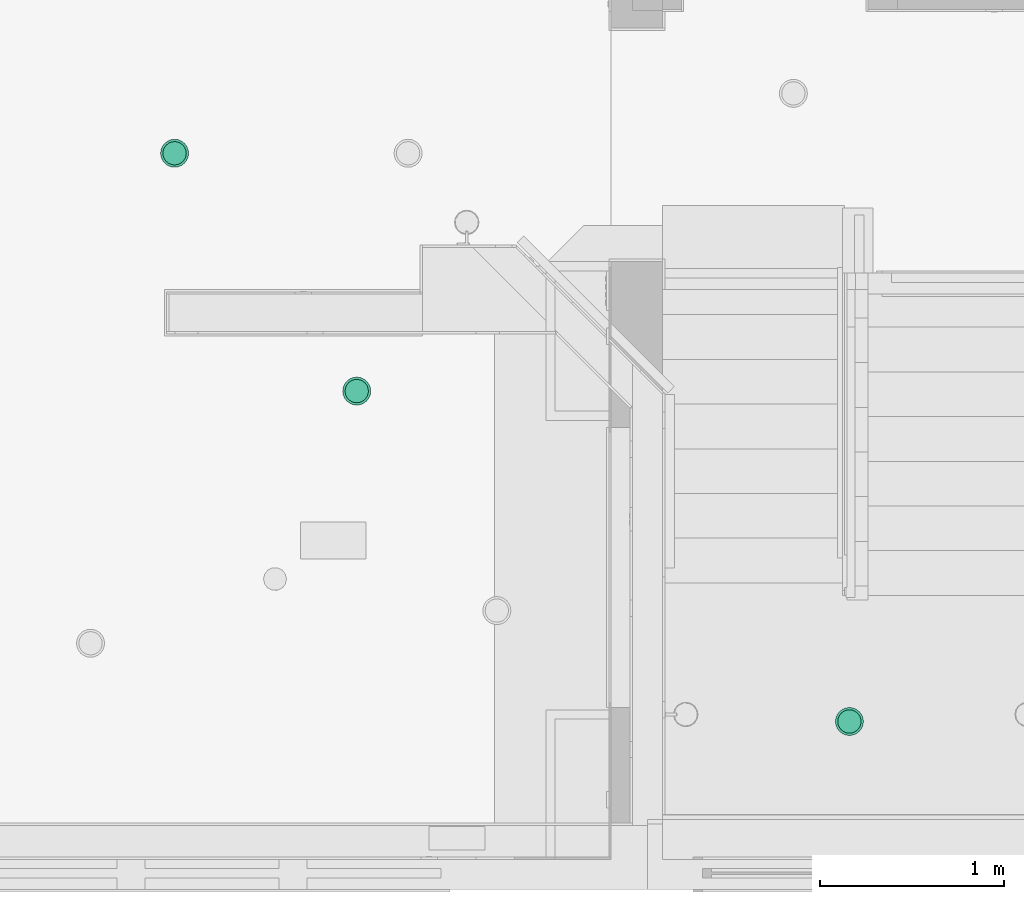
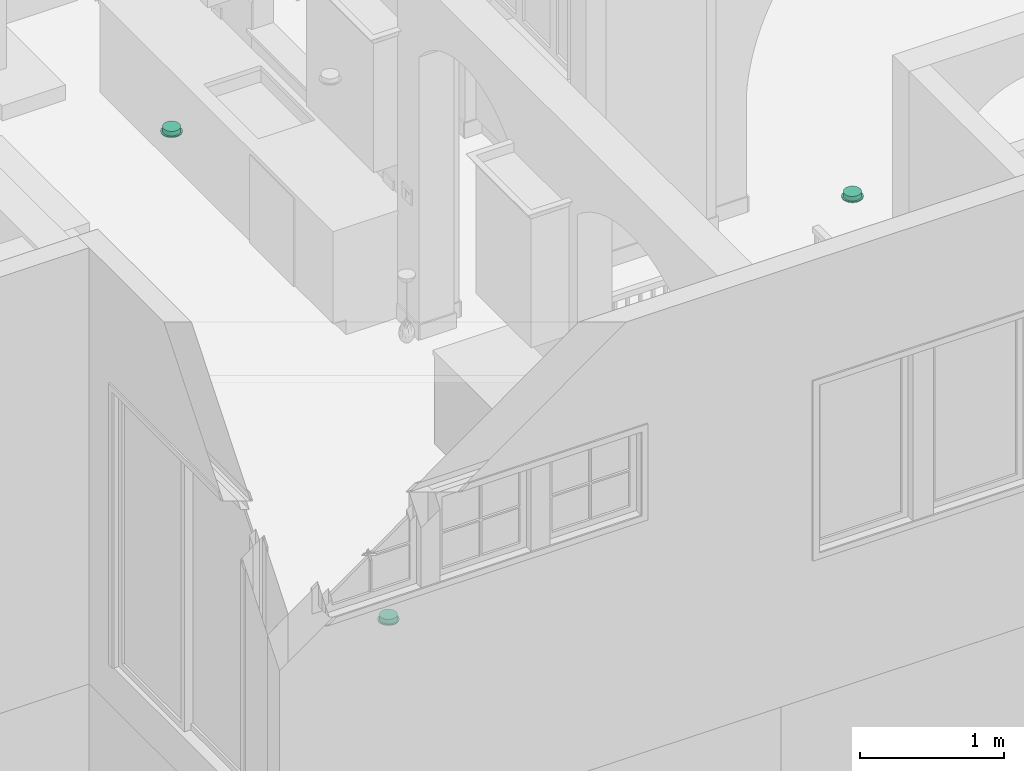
# One storey, part 40 of 81: 3 flow terminals.
"""IFC2X3 building model written with IfcOpenShell, lengths in feet."""

from ifc_helpers import new_model, entity, si_unit, converted_unit, derived_unit, direction, frame, origin, place, context, subcontext, project, spatial, faceted_brep, source, transform, mapped, material, material_list, type_object, type_shapes, element, save


model = new_model("IFC2X3")

# Units and contexts
model_context = context("Model", 3, precision=0.0001, world=origin(), true_north=direction((6.12303176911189e-17, 1.0)))
body_context = subcontext(model_context, "Body", "Model", "MODEL_VIEW")
ifc_project = project(units=[converted_unit("LENGTHUNIT", "FOOT", entity("IfcRatioMeasure", 0.3048), si_unit("LENGTHUNIT", "METRE"), dimensions=[1, 0, 0, 0, 0, 0, 0]), converted_unit("AREAUNIT", "SQUARE FOOT", entity("IfcRatioMeasure", 0.09290304), si_unit("AREAUNIT", "SQUARE_METRE"), dimensions=[2, 0, 0, 0, 0, 0, 0]), converted_unit("VOLUMEUNIT", "CUBIC FOOT", entity("IfcRatioMeasure", 0.028316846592), si_unit("VOLUMEUNIT", "CUBIC_METRE"), dimensions=[3, 0, 0, 0, 0, 0, 0]), converted_unit("PLANEANGLEUNIT", "DEGREE", entity("IfcRatioMeasure", 0.0174532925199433), si_unit("PLANEANGLEUNIT", "RADIAN"), dimensions=[0, 0, 0, 0, 0, 0, 0]), si_unit("MASSUNIT", "GRAM", prefix="KILO"), derived_unit("MASSDENSITYUNIT", [(si_unit("MASSUNIT", "GRAM", prefix="KILO"), 1), (si_unit("LENGTHUNIT", "METRE"), -3)]), derived_unit("MOMENTOFINERTIAUNIT", [(si_unit("LENGTHUNIT", "METRE"), 4)]), si_unit("TIMEUNIT", "SECOND"), si_unit("FREQUENCYUNIT", "HERTZ"), si_unit("THERMODYNAMICTEMPERATUREUNIT", "DEGREE_CELSIUS"), derived_unit("THERMALTRANSMITTANCEUNIT", [(si_unit("MASSUNIT", "GRAM", prefix="KILO"), 1), (si_unit("THERMODYNAMICTEMPERATUREUNIT", "KELVIN"), -1), (si_unit("TIMEUNIT", "SECOND"), -3)]), derived_unit("VOLUMETRICFLOWRATEUNIT", [(si_unit("LENGTHUNIT", "METRE"), 3), (si_unit("TIMEUNIT", "SECOND"), -1)]), si_unit("ELECTRICCURRENTUNIT", "AMPERE"), si_unit("ELECTRICVOLTAGEUNIT", "VOLT"), si_unit("POWERUNIT", "WATT"), si_unit("FORCEUNIT", "NEWTON"), si_unit("ILLUMINANCEUNIT", "LUX"), si_unit("LUMINOUSFLUXUNIT", "LUMEN"), si_unit("LUMINOUSINTENSITYUNIT", "CANDELA"), derived_unit("USERDEFINED", [(si_unit("MASSUNIT", "GRAM", prefix="KILO"), -1), (si_unit("LENGTHUNIT", "METRE"), -2), (si_unit("TIMEUNIT", "SECOND"), 3), (si_unit("LUMINOUSFLUXUNIT", "LUMEN"), 1)]), derived_unit("LINEARVELOCITYUNIT", [(si_unit("LENGTHUNIT", "METRE"), 1), (si_unit("TIMEUNIT", "SECOND"), -1)]), si_unit("PRESSUREUNIT", "PASCAL"), derived_unit("USERDEFINED", [(si_unit("LENGTHUNIT", "METRE"), -2), (si_unit("MASSUNIT", "GRAM", prefix="KILO"), 1), (si_unit("TIMEUNIT", "SECOND"), -2)]), derived_unit("LINEARFORCEUNIT", [(si_unit("MASSUNIT", "GRAM", prefix="KILO"), 1), (si_unit("LENGTHUNIT", "METRE"), 1), (si_unit("TIMEUNIT", "SECOND"), -2), (si_unit("LENGTHUNIT", "METRE"), -1)]), derived_unit("PLANARFORCEUNIT", [(si_unit("MASSUNIT", "GRAM", prefix="KILO"), 1), (si_unit("LENGTHUNIT", "METRE"), 1), (si_unit("TIMEUNIT", "SECOND"), -2), (si_unit("LENGTHUNIT", "METRE"), -2)])], contexts=[model_context])

# Site, building, storey
site_placement = place(None, origin())
site = spatial("IfcSite", under=ifc_project, at=site_placement, Name="Default", CompositionType="ELEMENT")
building_placement = place(site_placement, origin())
building = spatial("IfcBuilding", under=site, at=building_placement, CompositionType="ELEMENT")
storey_placement = place(building_placement, origin())
storey = spatial("IfcBuildingStorey", under=building, at=storey_placement, Name="First floor", CompositionType="ELEMENT", Elevation=0.0)

# Flow terminals
ifc_material_1 = material(Name="Default New Material")
ifc_material_2 = material(Name="Glass, White, High Luminance")
ifc_material_list_1 = material_list([ifc_material_1, ifc_material_2])
ifc_material_list_2 = material_list([ifc_material_1, ifc_material_2])
light_fixture_type = type_object("IfcLightFixtureType", Name="M_Recessed Lamp - Round - LED:Light 2", PredefinedType="NOTDEFINED", material=ifc_material_list_2)
shared_shape = source(origin(), body_context, "Body", "Brep", [
    faceted_brep([(-0.124999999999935, 0.216506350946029, 0.0208333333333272), (-0.176776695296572, 0.176776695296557, 0.0208333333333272), (-0.0833333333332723, 0.144337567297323, 0.0208333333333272), (-0.0431365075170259, 0.160987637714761, 0.0208333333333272), (-0.0647047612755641, 0.241481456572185, 0.0208333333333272), (-0.117851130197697, 0.117851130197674, 0.0208333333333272), (-0.216506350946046, 0.12499999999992, 0.0208333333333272), (-0.144337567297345, 0.0833333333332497, 0.0208333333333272), (-0.160987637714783, 0.0431365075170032, 0.0208333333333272), (-0.241481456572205, 0.0647047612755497, 0.0208333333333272), (-0.166666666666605, 0.0, 0.0208333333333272), (-0.249999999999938, 0.0, 0.0208333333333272), (-0.160987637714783, -0.0431365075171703, 0.0208333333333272), (-0.241481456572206, -0.0647047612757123, 0.0208333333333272), (-0.144337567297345, -0.0833333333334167, 0.0208333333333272), (-0.216506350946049, -0.125000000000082, 0.0208333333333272), (-0.117851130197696, -0.117851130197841, 0.0208333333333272), (-0.176776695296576, -0.176776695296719, 0.0208333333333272), (-0.0833333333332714, -0.14433756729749, 0.0208333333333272), (-0.12499999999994, -0.216506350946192, 0.0208333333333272), (-0.0431365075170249, -0.160987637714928, 0.0208333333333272), (-0.0647047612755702, -0.24148145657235, 0.0208333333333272), (0.0, -0.16666666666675, 0.0208333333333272), (0.0, -0.250000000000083, 0.0208333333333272), (0.0431365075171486, -0.160987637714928, 0.0208333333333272), (0.0647047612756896, -0.241481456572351, 0.0208333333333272), (0.0833333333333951, -0.144337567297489, 0.0208333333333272), (0.12500000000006, -0.216506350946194, 0.0208333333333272), (0.11785113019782, -0.117851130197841, 0.0208333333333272), (0.176776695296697, -0.176776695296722, 0.0208333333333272), (0.144337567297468, -0.0833333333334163, 0.0208333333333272), (0.21650635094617, -0.125000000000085, 0.0208333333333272), (0.241481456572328, -0.0647047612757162, 0.0208333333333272), (0.160987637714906, -0.0431365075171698, 0.0208333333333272), (0.250000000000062, 0.0, 0.0208333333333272), (0.166666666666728, 0.0, 0.0208333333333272), (0.241481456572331, 0.06470476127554, 0.0208333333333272), (0.160987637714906, 0.0431365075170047, 0.0208333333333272), (0.216506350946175, 0.124999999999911, 0.0208333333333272), (0.144337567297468, 0.0833333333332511, 0.0208333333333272), (0.176776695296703, 0.176776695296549, 0.0208333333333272), (0.117851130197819, 0.117851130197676, 0.0208333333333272), (0.125000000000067, 0.216506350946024, 0.0208333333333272), (0.0833333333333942, 0.144337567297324, 0.0208333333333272), (0.0647047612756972, 0.241481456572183, 0.0208333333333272), (0.0431365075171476, 0.160987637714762, 0.0208333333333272), (0.0, 0.249999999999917, 0.0208333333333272), (0.0, 0.166666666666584, 0.0208333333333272), (-0.12499999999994, -0.216506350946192, 0.0), (-0.176776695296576, -0.176776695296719, 0.0), (-0.0833333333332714, -0.14433756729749, 0.0), (-0.0431365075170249, -0.160987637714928, 0.0), (-0.0647047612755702, -0.24148145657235, 0.0), (-0.117851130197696, -0.117851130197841, 0.0), (-0.216506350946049, -0.125000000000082, 0.0), (-0.144337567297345, -0.0833333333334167, 0.0), (-0.160987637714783, -0.0431365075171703, 0.0), (-0.241481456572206, -0.0647047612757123, 0.0), (-0.166666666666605, 0.0, 0.0), (-0.249999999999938, 0.0, 0.0), (-0.160987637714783, 0.0431365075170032, 0.0), (-0.241481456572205, 0.0647047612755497, 0.0), (-0.144337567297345, 0.0833333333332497, 0.0), (-0.216506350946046, 0.12499999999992, 0.0), (-0.117851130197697, 0.117851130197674, 0.0), (-0.176776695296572, 0.176776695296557, 0.0), (-0.0833333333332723, 0.144337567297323, 0.0), (-0.124999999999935, 0.216506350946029, 0.0), (-0.0431365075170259, 0.160987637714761, 0.0), (-0.0647047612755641, 0.241481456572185, 0.0), (0.0, 0.166666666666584, 0.0), (0.0, 0.249999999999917, 0.0), (0.0431365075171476, 0.160987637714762, 0.0), (0.0647047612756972, 0.241481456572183, 0.0), (0.0833333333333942, 0.144337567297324, 0.0), (0.125000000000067, 0.216506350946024, 0.0), (0.117851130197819, 0.117851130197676, 0.0), (0.176776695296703, 0.176776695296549, 0.0), (0.144337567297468, 0.0833333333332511, 0.0), (0.216506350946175, 0.124999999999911, 0.0), (0.241481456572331, 0.06470476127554, 0.0), (0.160987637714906, 0.0431365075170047, 0.0), (0.250000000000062, 0.0, 0.0), (0.166666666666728, 0.0, 0.0), (0.241481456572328, -0.0647047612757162, 0.0), (0.160987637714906, -0.0431365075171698, 0.0), (0.21650635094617, -0.125000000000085, 0.0), (0.144337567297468, -0.0833333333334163, 0.0), (0.176776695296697, -0.176776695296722, 0.0), (0.11785113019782, -0.117851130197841, 0.0), (0.12500000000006, -0.216506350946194, 0.0), (0.0833333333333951, -0.144337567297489, 0.0), (0.0647047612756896, -0.241481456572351, 0.0), (0.0431365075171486, -0.160987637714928, 0.0), (0.0, -0.250000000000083, 0.0), (0.0, -0.16666666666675, 0.0)], [[[0, 1, 2]], [[0, 2, 3]], [[3, 4, 0]], [[2, 1, 5]], [[6, 5, 1]], [[7, 5, 6]], [[8, 7, 6]], [[8, 6, 9]], [[8, 9, 10]], [[10, 9, 11]], [[12, 10, 11]], [[12, 11, 13]], [[14, 12, 13]], [[14, 13, 15]], [[16, 14, 15]], [[15, 17, 16]], [[17, 18, 16]], [[18, 17, 19]], [[18, 19, 20]], [[21, 20, 19]], [[20, 21, 22]], [[22, 21, 23]], [[23, 24, 22]], [[24, 23, 25]], [[24, 25, 26]], [[27, 26, 25]], [[27, 28, 26]], [[27, 29, 28]], [[30, 28, 29]], [[31, 30, 29]], [[32, 30, 31]], [[33, 30, 32]], [[33, 32, 34]], [[34, 35, 33]], [[36, 35, 34]], [[36, 37, 35]], [[37, 36, 38]], [[39, 37, 38]], [[39, 38, 40]], [[39, 40, 41]], [[40, 42, 41]], [[41, 42, 43]], [[43, 42, 44]], [[44, 45, 43]], [[46, 45, 44]], [[4, 47, 46]], [[45, 46, 47]], [[4, 3, 47]], [[48, 49, 50]], [[48, 50, 51]], [[51, 52, 48]], [[50, 49, 53]], [[54, 53, 49]], [[55, 53, 54]], [[56, 55, 54]], [[56, 54, 57]], [[56, 57, 58]], [[58, 57, 59]], [[60, 58, 59]], [[60, 59, 61]], [[62, 60, 61]], [[62, 61, 63]], [[64, 62, 63]], [[63, 65, 64]], [[65, 66, 64]], [[66, 65, 67]], [[66, 67, 68]], [[69, 68, 67]], [[68, 69, 70]], [[70, 69, 71]], [[71, 72, 70]], [[72, 71, 73]], [[72, 73, 74]], [[75, 74, 73]], [[75, 76, 74]], [[75, 77, 76]], [[78, 76, 77]], [[79, 78, 77]], [[80, 78, 79]], [[81, 78, 80]], [[81, 80, 82]], [[82, 83, 81]], [[84, 83, 82]], [[84, 85, 83]], [[85, 84, 86]], [[87, 85, 86]], [[87, 86, 88]], [[87, 88, 89]], [[88, 90, 89]], [[89, 90, 91]], [[91, 90, 92]], [[92, 93, 91]], [[94, 93, 92]], [[52, 95, 94]], [[93, 94, 95]], [[52, 51, 95]], [[10, 58, 60, 8]], [[8, 60, 62, 7]], [[2, 5, 64, 66]], [[62, 64, 5, 7]], [[3, 2, 66, 68]], [[70, 47, 3, 68]], [[45, 72, 74, 43]], [[43, 74, 76, 41]], [[37, 39, 78, 81]], [[76, 78, 39, 41]], [[35, 37, 81, 83]], [[45, 47, 70, 72]], [[35, 83, 85, 33]], [[33, 85, 87, 30]], [[26, 28, 89, 91]], [[87, 89, 28, 30]], [[24, 26, 91, 93]], [[95, 22, 24, 93]], [[20, 51, 50, 18]], [[18, 50, 53, 16]], [[12, 14, 55, 56]], [[53, 55, 14, 16]], [[10, 12, 56, 58]], [[20, 22, 95, 51]], [[57, 13, 11, 59]], [[54, 15, 13, 57]], [[19, 17, 49, 48]], [[54, 49, 17, 15]], [[21, 19, 48, 52]], [[23, 21, 52, 94]], [[92, 25, 23, 94]], [[90, 27, 25, 92]], [[31, 29, 88, 86]], [[90, 88, 29, 27]], [[32, 31, 86, 84]], [[34, 32, 84, 82]], [[80, 36, 34, 82]], [[79, 38, 36, 80]], [[42, 40, 77, 75]], [[79, 77, 40, 38]], [[44, 42, 75, 73]], [[46, 44, 73, 71]], [[69, 4, 46, 71]], [[67, 0, 4, 69]], [[6, 1, 65, 63]], [[67, 65, 1, 0]], [[9, 6, 63, 61]], [[11, 9, 61, 59]]]),
    faceted_brep([(0.0431365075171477, -0.160987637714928, 0.0208333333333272), (0.0833333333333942, -0.14433756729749, 0.0208333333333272), (0.117851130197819, -0.117851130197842, 0.0208333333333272), (0.144337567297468, -0.0833333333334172, 0.0208333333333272), (0.160987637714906, -0.0431365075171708, 0.0208333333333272), (0.166666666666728, 0.0, 0.0208333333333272), (0.160987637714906, 0.0431365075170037, 0.0208333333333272), (0.144337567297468, 0.0833333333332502, 0.0208333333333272), (0.11785113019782, 0.117851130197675, 0.0208333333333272), (0.0833333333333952, 0.144337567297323, 0.0208333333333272), (0.0431365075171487, 0.160987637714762, 0.0208333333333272), (0.0, 0.166666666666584, 0.0208333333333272), (-0.0431365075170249, 0.160987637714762, 0.0208333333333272), (-0.0833333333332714, 0.144337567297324, 0.0208333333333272), (-0.117851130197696, 0.117851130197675, 0.0208333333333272), (-0.144337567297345, 0.0833333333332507, 0.0208333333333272), (-0.160987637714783, 0.0431365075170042, 0.0208333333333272), (-0.166666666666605, 0.0, 0.0208333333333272), (-0.160987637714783, -0.0431365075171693, 0.0208333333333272), (-0.144337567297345, -0.0833333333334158, 0.0208333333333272), (-0.117851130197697, -0.117851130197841, 0.0208333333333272), (-0.0833333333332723, -0.144337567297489, 0.0208333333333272), (-0.0431365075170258, -0.160987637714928, 0.0208333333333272), (0.0, -0.16666666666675, 0.0208333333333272), (0.0431365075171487, 0.160987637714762, 0.0), (0.0833333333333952, 0.144337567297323, 0.0), (0.11785113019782, 0.117851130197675, 0.0), (0.144337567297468, 0.0833333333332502, 0.0), (0.160987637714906, 0.0431365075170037, 0.0), (0.166666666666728, 0.0, 0.0), (0.160987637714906, -0.0431365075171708, 0.0), (0.144337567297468, -0.0833333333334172, 0.0), (0.117851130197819, -0.117851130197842, 0.0), (0.0833333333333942, -0.14433756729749, 0.0), (0.0431365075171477, -0.160987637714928, 0.0), (0.0, -0.16666666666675, 0.0), (-0.0431365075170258, -0.160987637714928, 0.0), (-0.0833333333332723, -0.144337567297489, 0.0), (-0.117851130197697, -0.117851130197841, 0.0), (-0.144337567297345, -0.0833333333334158, 0.0), (-0.160987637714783, -0.0431365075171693, 0.0), (-0.166666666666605, 0.0, 0.0), (-0.160987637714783, 0.0431365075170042, 0.0), (-0.144337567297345, 0.0833333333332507, 0.0), (-0.117851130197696, 0.117851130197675, 0.0), (-0.0833333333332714, 0.144337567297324, 0.0), (-0.0431365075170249, 0.160987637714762, 0.0), (0.0, 0.166666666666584, 0.0)], [[[0, 1, 2, 3, 4, 5, 6, 7, 8, 9, 10, 11, 12, 13, 14, 15, 16, 17, 18, 19, 20, 21, 22, 23]], [[24, 25, 26, 27, 28, 29, 30, 31, 32, 33, 34, 35, 36, 37, 38, 39, 40, 41, 42, 43, 44, 45, 46, 47]], [[40, 18, 17, 41]], [[39, 19, 18, 40]], [[21, 20, 38, 37]], [[39, 38, 20, 19]], [[22, 21, 37, 36]], [[23, 22, 36, 35]], [[34, 0, 23, 35]], [[33, 1, 0, 34]], [[3, 2, 32, 31]], [[33, 32, 2, 1]], [[4, 3, 31, 30]], [[5, 4, 30, 29]], [[28, 6, 5, 29]], [[27, 7, 6, 28]], [[9, 8, 26, 25]], [[27, 26, 8, 7]], [[10, 9, 25, 24]], [[11, 10, 24, 47]], [[46, 12, 11, 47]], [[45, 13, 12, 46]], [[15, 14, 44, 43]], [[45, 44, 14, 13]], [[16, 15, 43, 42]], [[17, 16, 42, 41]]]),
    faceted_brep([(0.0, -0.16666666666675, -0.104166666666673), (0.0431365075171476, -0.160987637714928, -0.104166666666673), (0.0833333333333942, -0.14433756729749, -0.104166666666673), (0.117851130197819, -0.117851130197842, -0.104166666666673), (0.144337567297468, -0.0833333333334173, -0.104166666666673), (0.160987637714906, -0.0431365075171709, -0.104166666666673), (0.166666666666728, 0.0, -0.104166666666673), (0.160987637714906, 0.0431365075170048, -0.104166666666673), (0.144337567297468, 0.0833333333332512, -0.104166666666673), (0.117851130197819, 0.117851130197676, -0.104166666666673), (0.0833333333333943, 0.144337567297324, -0.104166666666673), (0.0431365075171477, 0.160987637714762, -0.104166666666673), (0.0, 0.166666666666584, -0.104166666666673), (-0.0431365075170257, 0.160987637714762, -0.104166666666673), (-0.0833333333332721, 0.144337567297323, -0.104166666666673), (-0.117851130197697, 0.117851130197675, -0.104166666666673), (-0.144337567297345, 0.0833333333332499, -0.104166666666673), (-0.160987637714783, 0.0431365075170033, -0.104166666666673), (-0.166666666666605, 0.0, -0.104166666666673), (-0.160987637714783, -0.0431365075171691, -0.104166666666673), (-0.144337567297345, -0.0833333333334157, -0.104166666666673), (-0.117851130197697, -0.11785113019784, -0.104166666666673), (-0.0833333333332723, -0.144337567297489, -0.104166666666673), (-0.0431365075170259, -0.160987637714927, -0.104166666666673), (0.0, 0.20833333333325, -0.125000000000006), (0.0539206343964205, 0.201234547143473, -0.125000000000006), (0.104166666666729, 0.180421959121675, -0.125000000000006), (0.147313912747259, 0.147313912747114, -0.125000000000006), (0.18042195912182, 0.104166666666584, -0.125000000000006), (0.201234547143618, 0.0539206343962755, -0.125000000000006), (0.208333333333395, 0.0, -0.125000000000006), (0.201234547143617, -0.0539206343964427, -0.125000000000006), (0.180421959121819, -0.104166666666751, -0.125000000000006), (0.147313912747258, -0.147313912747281, -0.125000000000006), (0.104166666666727, -0.180421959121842, -0.125000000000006), (0.0539206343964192, -0.201234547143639, -0.125000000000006), (0.0, -0.208333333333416, -0.125000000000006), (-0.0539206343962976, -0.201234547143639, -0.125000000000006), (-0.104166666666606, -0.180421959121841, -0.125000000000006), (-0.147313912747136, -0.14731391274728, -0.125000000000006), (-0.180421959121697, -0.104166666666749, -0.125000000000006), (-0.201234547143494, -0.0539206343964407, -0.125000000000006), (-0.208333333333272, 0.0, -0.125000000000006), (-0.201234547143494, 0.0539206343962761, -0.125000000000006), (-0.180421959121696, 0.104166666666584, -0.125000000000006), (-0.147313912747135, 0.147313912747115, -0.125000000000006), (-0.104166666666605, 0.180421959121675, -0.125000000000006), (-0.0539206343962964, 0.201234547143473, -0.125000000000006), (-0.201234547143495, -0.0539206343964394, -0.104166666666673), (-0.201234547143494, -0.0539206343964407, 0.0), (-0.208333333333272, 0.0, 0.0), (-0.208333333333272, 0.0, -0.104166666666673), (-0.180421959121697, -0.104166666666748, -0.104166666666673), (-0.180421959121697, -0.104166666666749, 0.0), (-0.104166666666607, -0.18042195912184, -0.104166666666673), (-0.104166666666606, -0.180421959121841, 0.0), (-0.147313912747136, -0.14731391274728, 0.0), (-0.147313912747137, -0.147313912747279, -0.104166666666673), (-0.0539206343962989, -0.201234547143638, -0.104166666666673), (-0.0539206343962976, -0.201234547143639, 0.0), (0.0, -0.208333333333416, -0.104166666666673), (0.0, -0.208333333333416, 0.0), (0.053920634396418, -0.201234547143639, -0.104166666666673), (0.0539206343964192, -0.201234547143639, 0.0), (0.104166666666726, -0.180421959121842, -0.104166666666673), (0.104166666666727, -0.180421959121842, 0.0), (0.180421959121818, -0.104166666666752, -0.104166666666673), (0.180421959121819, -0.104166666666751, 0.0), (0.147313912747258, -0.147313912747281, 0.0), (0.147313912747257, -0.147313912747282, -0.104166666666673), (0.201234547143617, -0.0539206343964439, -0.104166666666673), (0.201234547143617, -0.0539206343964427, 0.0), (0.208333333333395, 0.0, -0.104166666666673), (0.208333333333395, 0.0, 0.0), (0.201234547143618, 0.0539206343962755, -0.104166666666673), (0.201234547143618, 0.0539206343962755, 0.0), (0.18042195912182, 0.104166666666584, -0.104166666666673), (0.18042195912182, 0.104166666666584, 0.0), (0.104166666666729, 0.180421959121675, -0.104166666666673), (0.104166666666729, 0.180421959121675, 0.0), (0.147313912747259, 0.147313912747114, 0.0), (0.147313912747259, 0.147313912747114, -0.104166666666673), (0.0539206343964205, 0.201234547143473, -0.104166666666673), (0.0539206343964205, 0.201234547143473, 0.0), (0.0, 0.20833333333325, -0.104166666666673), (0.0, 0.20833333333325, 0.0), (-0.0539206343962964, 0.201234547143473, -0.104166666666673), (-0.0539206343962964, 0.201234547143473, 0.0), (-0.104166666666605, 0.180421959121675, -0.104166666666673), (-0.104166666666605, 0.180421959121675, 0.0), (-0.180421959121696, 0.104166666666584, -0.104166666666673), (-0.180421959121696, 0.104166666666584, 0.0), (-0.147313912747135, 0.147313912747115, 0.0), (-0.147313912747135, 0.147313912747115, -0.104166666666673), (-0.201234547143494, 0.0539206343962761, -0.104166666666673), (-0.201234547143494, 0.0539206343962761, 0.0), (-0.0833333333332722, 0.144337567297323, 0.0), (-0.0431365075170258, 0.160987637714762, 0.0), (-0.117851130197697, 0.117851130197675, 0.0), (-0.144337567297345, 0.0833333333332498, 0.0), (-0.160987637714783, 0.0431365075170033, 0.0), (-0.166666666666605, 0.0, 0.0), (-0.160987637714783, -0.0431365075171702, 0.0), (-0.144337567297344, -0.0833333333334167, 0.0), (-0.117851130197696, -0.117851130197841, 0.0), (-0.0833333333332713, -0.14433756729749, 0.0), (-0.0431365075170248, -0.160987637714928, 0.0), (0.0, -0.16666666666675, 0.0), (0.0431365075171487, -0.160987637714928, 0.0), (0.0833333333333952, -0.144337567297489, 0.0), (0.11785113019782, -0.117851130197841, 0.0), (0.144337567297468, -0.0833333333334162, 0.0), (0.160987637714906, -0.0431365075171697, 0.0), (0.166666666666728, 0.0, 0.0), (0.160987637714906, 0.0431365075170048, 0.0), (0.144337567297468, 0.0833333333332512, 0.0), (0.117851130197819, 0.117851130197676, 0.0), (0.0833333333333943, 0.144337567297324, 0.0), (0.0431365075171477, 0.160987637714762, 0.0), (0.0, 0.166666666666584, 0.0)], [[[0, 1, 2, 3, 4, 5, 6, 7, 8, 9, 10, 11, 12, 13, 14, 15, 16, 17, 18, 19, 20, 21, 22, 23]], [[24, 25, 26, 27, 28, 29, 30, 31, 32, 33, 34, 35, 36, 37, 38, 39, 40, 41, 42, 43, 44, 45, 46, 47]], [[41, 48, 49, 50, 51, 42]], [[40, 52, 53, 49, 48, 41]], [[54, 55, 56, 57, 39, 38]], [[40, 39, 57, 56, 53, 52]], [[58, 59, 55, 54, 38, 37]], [[60, 61, 59, 58, 37, 36]], [[35, 62, 63, 61, 60, 36]], [[34, 64, 65, 63, 62, 35]], [[66, 67, 68, 69, 33, 32]], [[34, 33, 69, 68, 65, 64]], [[70, 71, 67, 66, 32, 31]], [[72, 73, 71, 70, 31, 30]], [[29, 74, 75, 73, 72, 30]], [[28, 76, 77, 75, 74, 29]], [[78, 79, 80, 81, 27, 26]], [[28, 27, 81, 80, 77, 76]], [[82, 83, 79, 78, 26, 25]], [[84, 85, 83, 82, 25, 24]], [[47, 86, 87, 85, 84, 24]], [[46, 88, 89, 87, 86, 47]], [[90, 91, 92, 93, 45, 44]], [[46, 45, 93, 92, 89, 88]], [[94, 95, 91, 90, 44, 43]], [[51, 50, 95, 94, 43, 42]], [[89, 92, 96]], [[89, 96, 97]], [[97, 87, 89]], [[96, 92, 98]], [[91, 98, 92]], [[99, 98, 91]], [[100, 99, 91]], [[100, 91, 95]], [[100, 95, 101]], [[101, 95, 50]], [[102, 101, 50]], [[102, 50, 49]], [[103, 102, 49]], [[103, 49, 53]], [[104, 103, 53]], [[53, 56, 104]], [[56, 105, 104]], [[105, 56, 55]], [[105, 55, 106]], [[59, 106, 55]], [[106, 59, 107]], [[107, 59, 61]], [[61, 108, 107]], [[108, 61, 63]], [[108, 63, 109]], [[65, 109, 63]], [[65, 110, 109]], [[65, 68, 110]], [[111, 110, 68]], [[67, 111, 68]], [[71, 111, 67]], [[112, 111, 71]], [[112, 71, 73]], [[73, 113, 112]], [[75, 113, 73]], [[75, 114, 113]], [[114, 75, 77]], [[115, 114, 77]], [[115, 77, 80]], [[115, 80, 116]], [[80, 79, 116]], [[116, 79, 117]], [[117, 79, 83]], [[83, 118, 117]], [[85, 118, 83]], [[87, 119, 85]], [[85, 119, 118]], [[87, 97, 119]], [[113, 6, 5, 112]], [[112, 5, 4, 111]], [[109, 110, 3, 2]], [[4, 3, 110, 111]], [[108, 109, 2, 1]], [[0, 107, 108, 1]], [[104, 105, 22, 21]], [[23, 22, 105, 106]], [[102, 103, 20, 19]], [[104, 21, 20, 103]], [[102, 19, 18, 101]], [[0, 23, 106, 107]], [[101, 18, 17, 100]], [[100, 17, 16, 99]], [[96, 98, 15, 14]], [[16, 15, 98, 99]], [[97, 96, 14, 13]], [[12, 119, 97, 13]], [[118, 11, 10, 117]], [[117, 10, 9, 116]], [[114, 115, 8, 7]], [[9, 8, 115, 116]], [[113, 114, 7, 6]], [[118, 119, 12, 11]]]),
])
type_shapes(light_fixture_type, [shared_shape])
flow_terminal_1_placement = place(storey_placement, frame((7.99999891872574, 8.89587285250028, 8.41666666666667), z_axis=(0.0, 0.0, -1.0), x_axis=(1.0, 0.0, 0.0)))
element("IfcFlowTerminal", 1, at=flow_terminal_1_placement, inside=storey, type_object=light_fixture_type, material=ifc_material_list_1, Name="M_Recessed Lamp - Round - LED:Light 2", ObjectType="M_Recessed Lamp - Round - LED:Light 2", context=body_context, shape_type="MappedRepresentation", body=[
    mapped(shared_shape, transform((0.0, 0.0, 0.0), scale=1.0)),
])
ifc_material_list_3 = material_list([ifc_material_1, ifc_material_2])
flow_terminal_2_placement = place(storey_placement, frame((16.7916666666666, 3.0, 20.6666666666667), z_axis=(0.0, 0.0, -1.0), x_axis=(1.0, 1.55529477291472e-05, 0.0)))
element("IfcFlowTerminal", 2, at=flow_terminal_2_placement, inside=storey, type_object=light_fixture_type, material=ifc_material_list_3, Name="M_Recessed Lamp - Round - LED:Light 2", ObjectType="M_Recessed Lamp - Round - LED:Light 2", context=body_context, shape_type="MappedRepresentation", body=[
    mapped(shared_shape, transform((0.0, 0.0, 0.0), scale=1.0)),
])
ifc_material_list_4 = material_list([ifc_material_1, ifc_material_2])
flow_terminal_3_placement = place(storey_placement, frame((4.7496628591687, 13.1398186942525, 20.5416666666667), z_axis=(0.0, 0.0, -1.0), x_axis=(1.0, 0.0, 0.0)))
element("IfcFlowTerminal", 3, at=flow_terminal_3_placement, inside=storey, type_object=light_fixture_type, material=ifc_material_list_4, Name="M_Recessed Lamp - Round - LED:Light 2", ObjectType="M_Recessed Lamp - Round - LED:Light 2", context=body_context, shape_type="MappedRepresentation", body=[
    mapped(shared_shape, transform((0.0, 0.0, 0.0), scale=1.0)),
])

save(model, "model.ifc")
